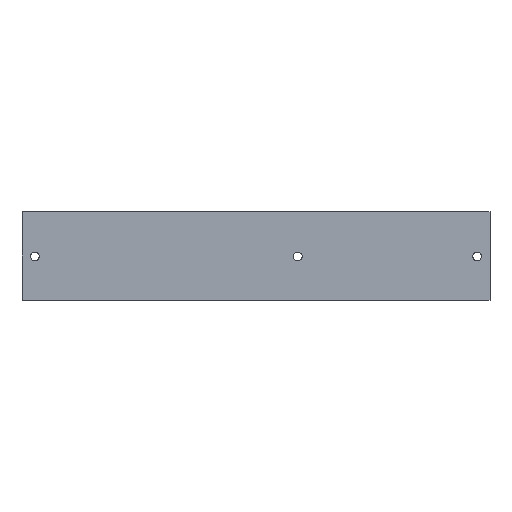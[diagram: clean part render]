
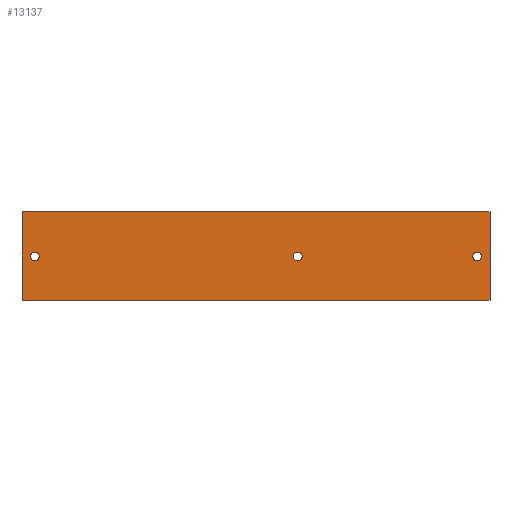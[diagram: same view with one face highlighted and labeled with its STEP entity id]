
A CAD part, front view. The second image highlights one B-rep face of the part: STEP entity #13137.
In plain terms, the highlighted planar face has unit normal (0, -1, 0).
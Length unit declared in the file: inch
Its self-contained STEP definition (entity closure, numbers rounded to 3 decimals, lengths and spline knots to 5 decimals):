
#42 = AXIS2_PLACEMENT_3D ( 'NONE', #13601, #13544, #13523 ) ;
#50 = CARTESIAN_POINT ( 'NONE',  ( 0., 0., -3.466 ) ) ;
#96 = AXIS2_PLACEMENT_3D ( 'NONE', #13410, #13357, #13305 ) ;
#206 = CARTESIAN_POINT ( 'NONE',  ( -18.25, 0., -3.466 ) ) ;
#1190 = EDGE_LOOP ( 'NONE', ( #2530, #7155 ) ) ;
#1245 = DIRECTION ( 'NONE',  ( 0., 0., 1. ) ) ;
#1874 = CIRCLE ( 'NONE', #9623, 0.172 ) ;
#2020 = VERTEX_POINT ( 'NONE', #9894 ) ;
#2167 = CARTESIAN_POINT ( 'NONE',  ( -0.5, 0., -1.578 ) ) ;
#2363 = FACE_BOUND ( 'NONE', #1190, .T. ) ;
#2530 = ORIENTED_EDGE ( 'NONE', *, *, #18911, .T. ) ;
#2852 = FACE_BOUND ( 'NONE', #5270, .T. ) ;
#2901 = VERTEX_POINT ( 'NONE', #50 ) ;
#3464 = ORIENTED_EDGE ( 'NONE', *, *, #8148, .F. ) ;
#3561 = DIRECTION ( 'NONE',  ( 0., 1., 0. ) ) ;
#4081 = DIRECTION ( 'NONE',  ( 0., 0., 1. ) ) ;
#4089 = DIRECTION ( 'NONE',  ( 0., 1., 0. ) ) ;
#4109 = CARTESIAN_POINT ( 'NONE',  ( -7.5, 0., -1.75 ) ) ;
#4404 = DIRECTION ( 'NONE',  ( 0., 0., 1. ) ) ;
#4481 = DIRECTION ( 'NONE',  ( 0., 1., 0. ) ) ;
#4498 = DIRECTION ( 'NONE',  ( 0., 0., -1. ) ) ;
#4516 = CARTESIAN_POINT ( 'NONE',  ( -0.5, 0., -1.75 ) ) ;
#4589 = PLANE ( 'NONE',  #15559 ) ;
#5270 = EDGE_LOOP ( 'NONE', ( #12691, #16982 ) ) ;
#5715 = LINE ( 'NONE', #9801, #17251 ) ;
#6144 = ORIENTED_EDGE ( 'NONE', *, *, #15372, .T. ) ;
#6151 = LINE ( 'NONE', #14912, #13802 ) ;
#6241 = VECTOR ( 'NONE', #9563, 39.37008 ) ;
#6487 = FACE_OUTER_BOUND ( 'NONE', #8503, .T. ) ;
#7155 = ORIENTED_EDGE ( 'NONE', *, *, #7476, .T. ) ;
#7407 = CARTESIAN_POINT ( 'NONE',  ( 0., 0., 0. ) ) ;
#7475 = EDGE_CURVE ( 'NONE', #10126, #16006, #18621, .T. ) ;
#7476 = EDGE_CURVE ( 'NONE', #9822, #18913, #16173, .T. ) ;
#7724 = EDGE_CURVE ( 'NONE', #16006, #10126, #14557, .T. ) ;
#7752 = EDGE_CURVE ( 'NONE', #2020, #16359, #17949, .T. ) ;
#7753 = CARTESIAN_POINT ( 'NONE',  ( -18.25, 0., 0. ) ) ;
#7915 = CIRCLE ( 'NONE', #13338, 0.172 ) ;
#8126 = ORIENTED_EDGE ( 'NONE', *, *, #9165, .T. ) ;
#8148 = EDGE_CURVE ( 'NONE', #9217, #17075, #5715, .T. ) ;
#8490 = AXIS2_PLACEMENT_3D ( 'NONE', #4516, #4481, #4404 ) ;
#8503 = EDGE_LOOP ( 'NONE', ( #13590, #3464, #8126, #13994 ) ) ;
#8562 = AXIS2_PLACEMENT_3D ( 'NONE', #4109, #4089, #4081 ) ;
#8640 = CARTESIAN_POINT ( 'NONE',  ( -7.5, 0., -1.922 ) ) ;
#8898 = ORIENTED_EDGE ( 'NONE', *, *, #7752, .T. ) ;
#9121 = EDGE_CURVE ( 'NONE', #17075, #2901, #19484, .T. ) ;
#9165 = EDGE_CURVE ( 'NONE', #9217, #9954, #6151, .T. ) ;
#9217 = VERTEX_POINT ( 'NONE', #7753 ) ;
#9345 = DIRECTION ( 'NONE',  ( 0., -1., 0. ) ) ;
#9563 = DIRECTION ( 'NONE',  ( 1., 0., 0. ) ) ;
#9623 = AXIS2_PLACEMENT_3D ( 'NONE', #19305, #10546, #1245 ) ;
#9801 = CARTESIAN_POINT ( 'NONE',  ( -18.25, 0., 0. ) ) ;
#9822 = VERTEX_POINT ( 'NONE', #11722 ) ;
#9894 = CARTESIAN_POINT ( 'NONE',  ( -7.5, 0., -1.578 ) ) ;
#9936 = DIRECTION ( 'NONE',  ( 1., 0., 0. ) ) ;
#9954 = VERTEX_POINT ( 'NONE', #18144 ) ;
#10126 = VERTEX_POINT ( 'NONE', #2167 ) ;
#10496 = CARTESIAN_POINT ( 'NONE',  ( -17.75, 0., -1.578 ) ) ;
#10546 = DIRECTION ( 'NONE',  ( 0., 1., 0. ) ) ;
#11272 = VECTOR ( 'NONE', #4498, 39.37008 ) ;
#11722 = CARTESIAN_POINT ( 'NONE',  ( -17.75, 0., -1.922 ) ) ;
#12691 = ORIENTED_EDGE ( 'NONE', *, *, #7475, .T. ) ;
#12835 = CARTESIAN_POINT ( 'NONE',  ( -7.5, 0., -1.75 ) ) ;
#13137 = ADVANCED_FACE ( 'NONE', ( #17950, #2363, #2852, #6487 ), #4589, .T. ) ;
#13305 = DIRECTION ( 'NONE',  ( 0., 0., 1. ) ) ;
#13338 = AXIS2_PLACEMENT_3D ( 'NONE', #12835, #3561, #14253 ) ;
#13357 = DIRECTION ( 'NONE',  ( 0., 1., 0. ) ) ;
#13410 = CARTESIAN_POINT ( 'NONE',  ( -17.75, 0., -1.75 ) ) ;
#13452 = DIRECTION ( 'NONE',  ( 0., 0., -1. ) ) ;
#13523 = DIRECTION ( 'NONE',  ( 0., 0., 1. ) ) ;
#13544 = DIRECTION ( 'NONE',  ( 0., 1., 0. ) ) ;
#13590 = ORIENTED_EDGE ( 'NONE', *, *, #9121, .F. ) ;
#13601 = CARTESIAN_POINT ( 'NONE',  ( -0.5, 0., -1.75 ) ) ;
#13802 = VECTOR ( 'NONE', #13452, 39.37008 ) ;
#13994 = ORIENTED_EDGE ( 'NONE', *, *, #19176, .T. ) ;
#14253 = DIRECTION ( 'NONE',  ( 0., 0., 1. ) ) ;
#14327 = LINE ( 'NONE', #206, #6241 ) ;
#14557 = CIRCLE ( 'NONE', #8490, 0.172 ) ;
#14912 = CARTESIAN_POINT ( 'NONE',  ( -18.25, 0., 0. ) ) ;
#15372 = EDGE_CURVE ( 'NONE', #16359, #2020, #7915, .T. ) ;
#15559 = AXIS2_PLACEMENT_3D ( 'NONE', #18127, #9345, #19616 ) ;
#16006 = VERTEX_POINT ( 'NONE', #17109 ) ;
#16173 = CIRCLE ( 'NONE', #96, 0.172 ) ;
#16359 = VERTEX_POINT ( 'NONE', #8640 ) ;
#16415 = EDGE_LOOP ( 'NONE', ( #8898, #6144 ) ) ;
#16982 = ORIENTED_EDGE ( 'NONE', *, *, #7724, .T. ) ;
#17075 = VERTEX_POINT ( 'NONE', #18549 ) ;
#17109 = CARTESIAN_POINT ( 'NONE',  ( -0.5, 0., -1.922 ) ) ;
#17251 = VECTOR ( 'NONE', #9936, 39.37008 ) ;
#17949 = CIRCLE ( 'NONE', #8562, 0.172 ) ;
#17950 = FACE_BOUND ( 'NONE', #16415, .T. ) ;
#18127 = CARTESIAN_POINT ( 'NONE',  ( -18.25, 0., 0. ) ) ;
#18144 = CARTESIAN_POINT ( 'NONE',  ( -18.25, 0., -3.466 ) ) ;
#18549 = CARTESIAN_POINT ( 'NONE',  ( 0., 0., 0. ) ) ;
#18621 = CIRCLE ( 'NONE', #42, 0.172 ) ;
#18911 = EDGE_CURVE ( 'NONE', #18913, #9822, #1874, .T. ) ;
#18913 = VERTEX_POINT ( 'NONE', #10496 ) ;
#19176 = EDGE_CURVE ( 'NONE', #9954, #2901, #14327, .T. ) ;
#19305 = CARTESIAN_POINT ( 'NONE',  ( -17.75, 0., -1.75 ) ) ;
#19484 = LINE ( 'NONE', #7407, #11272 ) ;
#19616 = DIRECTION ( 'NONE',  ( 0., 0., -1. ) ) ;
